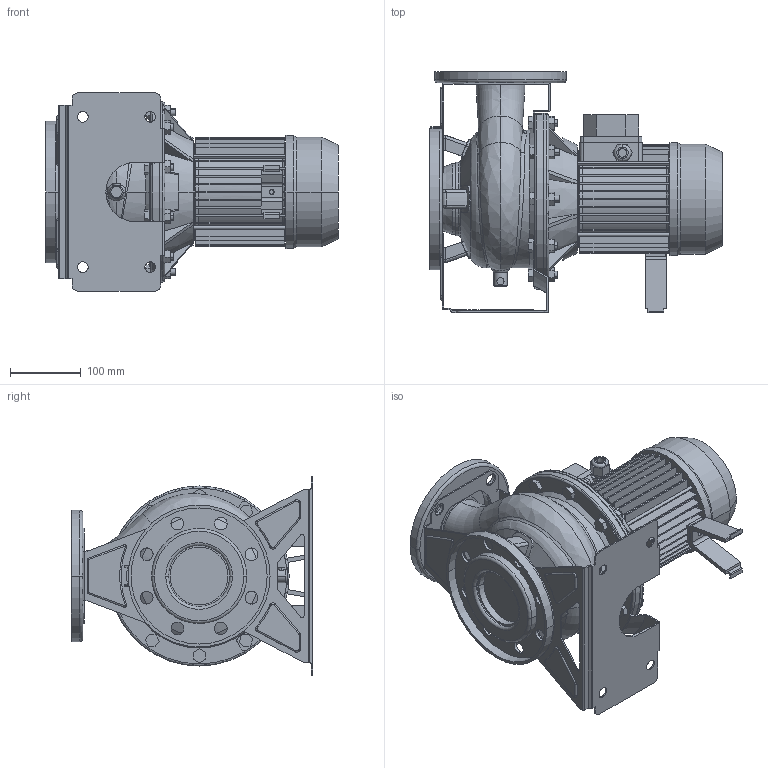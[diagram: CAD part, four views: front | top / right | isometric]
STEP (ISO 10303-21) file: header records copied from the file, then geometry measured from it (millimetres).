
FILE_DESCRIPTION((''),'2;1');
FILE_NAME('3M4_65-125_0_55_ASM','2012-03-15T',('Rosa'),('"Ebara Pumps Europe +39.444.706811"'),'PRO/ENGINEER BY PARAMETRIC TECHNOLOGY CORPORATION, 2009360','PRO/ENGINEER BY PARAMETRIC TECHNOLOGY CORPORATION, 2009360','');
FILE_SCHEMA(('AUTOMOTIVE_DESIGN { 1 0 10303 214 1 1 1 1 }'));
Length unit declared in the file: millimetre
Products named in the file (12): CORPO_65-125; ASP_65-125; FLANGIA_DIN_80_8_FORI; MAND_65-125; FLANGIA_DIN_65; BASE_3M_65-125; CORPO_SALDATO_65-125_ASM; SUPPORTO_3M_190_80; MEC_80; SOSTEGNO_72006; 72015; 3M4_65-125_0_55_ASM
Assembly tree (11 placements, depth 3):
  3M4_65-125_0_55_ASM
    CORPO_SALDATO_65-125_ASM
      CORPO_65-125
      ASP_65-125
      FLANGIA_DIN_80_8_FORI
      MAND_65-125
      FLANGIA_DIN_65
      BASE_3M_65-125
    SUPPORTO_3M_190_80
    MEC_80
    SOSTEGNO_72006
    72015
Bounding box: 413 x 340 x 280 mm (x, y, z)
Volume: 8220276 mm3; surface area: 1075283.8 mm2
Topology: 13 solids, 13 shells, 1145 faces, 2897 edges, 1836 vertices
Faces by surface type: plane 606, cylinder 316, cone 96, torus 68, bspline 45, sphere 14
Entity records: 52155 total; most frequent: CARTESIAN_POINT 12794, DIRECTION 5872, ORIENTED_EDGE 5794, EDGE_CURVE 2897, PRESENTATION_STYLE_ASSIGNMENT 2825, STYLED_ITEM 2825, CURVE_STYLE 2813, AXIS2_PLACEMENT_3D 2141
